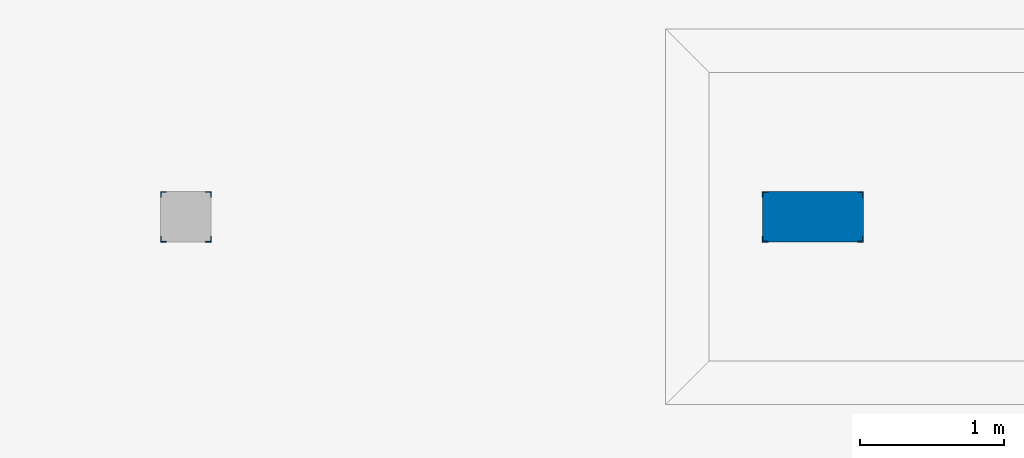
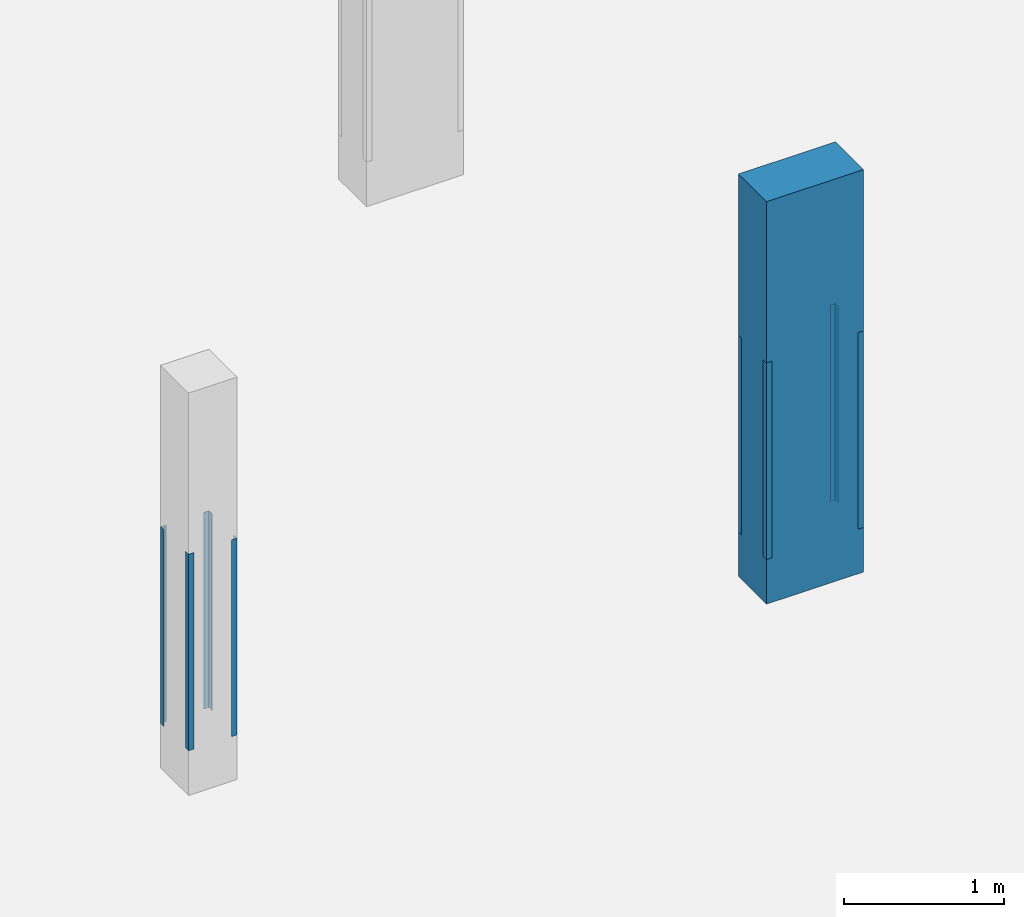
# One storey, part 15 of 42: 9 columns.
"""IFC2X3 building model written with IfcOpenShell, lengths in millimetres."""

from ifc_helpers import new_model, entity, si_unit, converted_unit, derived_unit, direction, frame, frame_2d, origin, place, context, subcontext, project, spatial, polyline, circle_curve, parameter, trimmed, segment, composite_curve, rectangle, outline, extrude, source, transform, mapped, material, type_object, type_shapes, element, save


model = new_model("IFC2X3")

# Units and contexts
model_context = context("Model", 3, precision=0.01, world=origin(), true_north=direction((6.12303176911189e-17, 1.0)))
body_context = subcontext(model_context, "Body", "Model", "MODEL_VIEW")
ifc_project = project(units=[si_unit("LENGTHUNIT", "METRE", prefix="MILLI"), si_unit("AREAUNIT", "SQUARE_METRE", prefix="MILLI"), si_unit("VOLUMEUNIT", "CUBIC_METRE"), converted_unit("PLANEANGLEUNIT", "DEGREE", entity("IfcRatioMeasure", 0.0174532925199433), si_unit("PLANEANGLEUNIT", "RADIAN"), dimensions=[0, 0, 0, 0, 0, 0, 0]), si_unit("MASSUNIT", "GRAM", prefix="KILO"), derived_unit("MASSDENSITYUNIT", [(si_unit("MASSUNIT", "GRAM", prefix="KILO"), 1), (si_unit("LENGTHUNIT", "METRE"), -3)]), derived_unit("MOMENTOFINERTIAUNIT", [(si_unit("LENGTHUNIT", "METRE"), 4)]), si_unit("TIMEUNIT", "SECOND"), si_unit("FREQUENCYUNIT", "HERTZ"), si_unit("THERMODYNAMICTEMPERATUREUNIT", "DEGREE_CELSIUS"), derived_unit("THERMALTRANSMITTANCEUNIT", [(si_unit("MASSUNIT", "GRAM", prefix="KILO"), 1), (si_unit("THERMODYNAMICTEMPERATUREUNIT", "KELVIN"), -1), (si_unit("TIMEUNIT", "SECOND"), -3)]), derived_unit("VOLUMETRICFLOWRATEUNIT", [(si_unit("LENGTHUNIT", "METRE"), 3), (si_unit("TIMEUNIT", "SECOND"), -1)]), si_unit("ELECTRICCURRENTUNIT", "AMPERE"), si_unit("ELECTRICVOLTAGEUNIT", "VOLT"), si_unit("POWERUNIT", "WATT"), si_unit("FORCEUNIT", "NEWTON", prefix="KILO"), si_unit("ILLUMINANCEUNIT", "LUX"), si_unit("LUMINOUSFLUXUNIT", "LUMEN"), si_unit("LUMINOUSINTENSITYUNIT", "CANDELA"), derived_unit("USERDEFINED", [(si_unit("MASSUNIT", "GRAM", prefix="KILO"), -1), (si_unit("LENGTHUNIT", "METRE"), -2), (si_unit("TIMEUNIT", "SECOND"), 3), (si_unit("LUMINOUSFLUXUNIT", "LUMEN"), 1)]), derived_unit("LINEARVELOCITYUNIT", [(si_unit("LENGTHUNIT", "METRE"), 1), (si_unit("TIMEUNIT", "SECOND"), -1)]), si_unit("PRESSUREUNIT", "PASCAL"), derived_unit("USERDEFINED", [(si_unit("LENGTHUNIT", "METRE"), -2), (si_unit("MASSUNIT", "GRAM", prefix="KILO"), 1), (si_unit("TIMEUNIT", "SECOND"), -2)]), derived_unit("LINEARFORCEUNIT", [(si_unit("MASSUNIT", "GRAM", prefix="KILO"), 1), (si_unit("LENGTHUNIT", "METRE"), 1), (si_unit("TIMEUNIT", "SECOND"), -2), (si_unit("LENGTHUNIT", "METRE"), -1)]), derived_unit("PLANARFORCEUNIT", [(si_unit("MASSUNIT", "GRAM", prefix="KILO"), 1), (si_unit("LENGTHUNIT", "METRE"), 1), (si_unit("TIMEUNIT", "SECOND"), -2), (si_unit("LENGTHUNIT", "METRE"), -2)])], contexts=[model_context])

# Site, building, storey
site_placement = place(None, origin())
site = spatial("IfcSite", under=ifc_project, at=site_placement, Name="Theater aan de Parade", CompositionType="ELEMENT")
building_placement = place(site_placement, origin())
building = spatial("IfcBuilding", under=site, at=building_placement, Name="Theater aan de Parade", CompositionType="ELEMENT")
storey_placement = place(building_placement, frame((0.0, 0.0, -3300.0)))
storey = spatial("IfcBuildingStorey", under=building, at=storey_placement, Name="-1 kelder", CompositionType="ELEMENT", Elevation=-3300.0)

# Columns
ifc_material_1 = material(Name="00_PBT_MAT_beton t.p.g.")
column_type_1 = type_object("IfcColumnType", Name="28_PBT_SC_beton_rechthoekig:700x350_bestaand", PredefinedType="COLUMN", material=ifc_material_1)
shared_shape_1 = source(origin(), body_context, "Body", "SweptSolid", [
    extrude(rectangle(XDim=349.999999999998, YDim=700.000000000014, at=frame_2d((4.33431068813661e-12, 0.0), x_axis=(1.0, 0.0))), frame((83290.0, 29970.0, -2640.0), z_axis=(0.0, 0.0, 1.0), x_axis=(0.0, -1.0, 0.0)), (0.0, 0.0, 1.0), 3070.00000000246),
])
type_shapes(column_type_1, [shared_shape_1])
column_1_placement = place(storey_placement, frame((0.0, 0.0, 3300.0)))
element("IfcColumn", 1, at=column_1_placement, inside=storey, type_object=column_type_1, material=ifc_material_1, Name="28_PBT_SC_beton_rechthoekig:700x350_bestaand", ObjectType="28_PBT_SC_beton_rechthoekig:700x350_bestaand", context=body_context, shape_type="MappedRepresentation", body=[
    mapped(shared_shape_1, transform((0.0, 0.0, 0.0), scale=1.0)),
])
ifc_material_2 = material(Name="00_PBT_MAT_staal")
column_type_2 = type_object("IfcColumnType", Name="28_PBT_SC_staal_L-profiel:L40x40x4_bestaand", PredefinedType="COLUMN", material=ifc_material_2)
shared_shape_2 = source(origin(), body_context, "Body", "SweptSolid", [
    extrude(outline(composite_curve([segment(polyline([(-15.1111111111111, -15.1111111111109), (24.8888888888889, -15.1111111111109)]), True, "CONTINUOUS"), segment(polyline([(24.8888888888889, -15.1111111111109), (24.8888888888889, -14.1111111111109)]), True, "CONTINUOUS"), segment(trimmed(circle_curve(frame_2d((21.8888888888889, -14.1111111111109), x_axis=(1.0, 0.0)), 3.0), [parameter(0.0)], [parameter(90.0000000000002)], True, "PARAMETER"), True, "CONTINUOUS"), segment(polyline([(21.8888888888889, -11.1111111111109), (-5.11111111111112, -11.1111111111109)]), True, "CONTINUOUS"), segment(trimmed(circle_curve(frame_2d((-5.11111111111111, -5.11111111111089), x_axis=(0.0, -1.0)), 6.0), [parameter(270.0)], [parameter(0.0)], True, "PARAMETER"), False, "CONTINUOUS"), segment(polyline([(-11.1111111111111, -5.11111111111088), (-11.1111111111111, 21.8888888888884)]), True, "CONTINUOUS"), segment(trimmed(circle_curve(frame_2d((-14.1111111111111, 21.8888888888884), x_axis=(1.0, 0.0)), 3.0), [parameter(0.0)], [parameter(90.0000000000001)], True, "PARAMETER"), True, "CONTINUOUS"), segment(polyline([(-14.1111111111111, 24.8888888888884), (-15.1111111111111, 24.8888888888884)]), True, "CONTINUOUS"), segment(polyline([(-15.1111111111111, 24.8888888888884), (-15.1111111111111, -15.1111111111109)]), True, "CONTINUOUS")], self_intersect=False)), frame((3.91111111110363, -3.9111111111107, -2300.0), z_axis=(0.0, 0.0, 1.0), x_axis=(0.0, -1.0, 0.0)), (0.0, 0.0, 1.0), 1500.0),
])
type_shapes(column_type_2, [shared_shape_2])
column_2_placement = place(storey_placement, frame((78781.2000000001, 30133.7999999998, 3300.0)))
element("IfcColumn", 2, at=column_2_placement, inside=storey, type_object=column_type_2, material=ifc_material_2, Name="28_PBT_SC_staal_L-profiel:L40x40x4_bestaand", ObjectType="28_PBT_SC_staal_L-profiel:L40x40x4_bestaand", context=body_context, shape_type="MappedRepresentation", body=[
    mapped(shared_shape_2, transform((0.0, 0.0, 0.0), scale=1.0)),
])
column_3_placement = place(storey_placement, frame((79108.7999999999, 29806.1999999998, 3300.0), z_axis=(0.0, 0.0, 1.0), x_axis=(-1.0, 0.0, 0.0)))
element("IfcColumn", 3, at=column_3_placement, inside=storey, type_object=column_type_2, material=ifc_material_2, Name="28_PBT_SC_staal_L-profiel:L40x40x4_bestaand", ObjectType="28_PBT_SC_staal_L-profiel:L40x40x4_bestaand", context=body_context, shape_type="MappedRepresentation", body=[
    mapped(shared_shape_2, transform((0.0, 0.0, 0.0), scale=1.0)),
])
column_4_placement = place(storey_placement, frame((82951.2, 30133.7999999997, 3300.0)))
element("IfcColumn", 4, at=column_4_placement, inside=storey, type_object=column_type_2, material=ifc_material_2, Name="28_PBT_SC_staal_L-profiel:L40x40x4_bestaand", ObjectType="28_PBT_SC_staal_L-profiel:L40x40x4_bestaand", context=body_context, shape_type="MappedRepresentation", body=[
    mapped(shared_shape_2, transform((0.0, 0.0, 0.0), scale=1.0)),
])
column_5_placement = place(storey_placement, frame((83628.7999999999, 29806.1999999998, 3300.0), z_axis=(0.0, 0.0, 1.0), x_axis=(-1.0, 0.0, 0.0)))
element("IfcColumn", 5, at=column_5_placement, inside=storey, type_object=column_type_2, material=ifc_material_2, Name="28_PBT_SC_staal_L-profiel:L40x40x4_bestaand", ObjectType="28_PBT_SC_staal_L-profiel:L40x40x4_bestaand", context=body_context, shape_type="MappedRepresentation", body=[
    mapped(shared_shape_2, transform((0.0, 0.0, 0.0), scale=1.0)),
])
column_type_3 = type_object("IfcColumnType", Name="28_PBT_SC_staal_L-profiel:L40x40x4_bestaand", PredefinedType="COLUMN", material=ifc_material_2)
shared_shape_3 = source(origin(), body_context, "Body", "SweptSolid", [
    extrude(outline(composite_curve([segment(polyline([(-24.8888888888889, -15.1111111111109), (15.1111111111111, -15.1111111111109)]), True, "CONTINUOUS"), segment(polyline([(15.1111111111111, -15.1111111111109), (15.1111111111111, 24.8888888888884)]), True, "CONTINUOUS"), segment(polyline([(15.1111111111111, 24.8888888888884), (14.1111111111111, 24.8888888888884)]), True, "CONTINUOUS"), segment(trimmed(circle_curve(frame_2d((14.1111111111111, 21.8888888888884), x_axis=(0.0, 1.0)), 3.0), [parameter(0.0)], [parameter(89.9999999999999)], True, "PARAMETER"), True, "CONTINUOUS"), segment(polyline([(11.1111111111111, 21.8888888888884), (11.1111111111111, -5.11111111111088)]), True, "CONTINUOUS"), segment(trimmed(circle_curve(frame_2d((5.1111111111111, -5.1111111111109), x_axis=(1.0, 0.0)), 6.0), [parameter(270.0)], [parameter(0.0)], True, "PARAMETER"), False, "CONTINUOUS"), segment(polyline([(5.11111111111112, -11.1111111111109), (-21.8888888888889, -11.1111111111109)]), True, "CONTINUOUS"), segment(trimmed(circle_curve(frame_2d((-21.8888888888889, -14.1111111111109), x_axis=(0.0, 1.0)), 3.0), [parameter(0.0)], [parameter(90.0000000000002)], True, "PARAMETER"), True, "CONTINUOUS"), segment(polyline([(-24.8888888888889, -14.1111111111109), (-24.8888888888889, -15.1111111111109)]), True, "CONTINUOUS")], self_intersect=False)), frame((3.91111111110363, 3.91111111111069, -2300.0), z_axis=(0.0, 0.0, 1.0), x_axis=(0.0, -1.0, 0.0)), (0.0, 0.0, 1.0), 1500.0),
])
type_shapes(column_type_3, [shared_shape_3])
column_6_placement = place(storey_placement, frame((79108.7999999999, 30133.7999999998, 3300.0), z_axis=(0.0, 0.0, 1.0), x_axis=(-1.0, 0.0, 0.0)))
element("IfcColumn", 6, at=column_6_placement, inside=storey, type_object=column_type_3, material=ifc_material_2, Name="28_PBT_SC_staal_L-profiel:L40x40x4_bestaand", ObjectType="28_PBT_SC_staal_L-profiel:L40x40x4_bestaand", context=body_context, shape_type="MappedRepresentation", body=[
    mapped(shared_shape_3, transform((0.0, 0.0, 0.0), scale=1.0)),
])
column_7_placement = place(storey_placement, frame((78781.2000000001, 29806.1999999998, 3300.0)))
element("IfcColumn", 7, at=column_7_placement, inside=storey, type_object=column_type_3, material=ifc_material_2, Name="28_PBT_SC_staal_L-profiel:L40x40x4_bestaand", ObjectType="28_PBT_SC_staal_L-profiel:L40x40x4_bestaand", context=body_context, shape_type="MappedRepresentation", body=[
    mapped(shared_shape_3, transform((0.0, 0.0, 0.0), scale=1.0)),
])
column_8_placement = place(storey_placement, frame((83628.7999999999, 30133.7999999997, 3300.0), z_axis=(0.0, 0.0, 1.0), x_axis=(-1.0, 0.0, 0.0)))
element("IfcColumn", 8, at=column_8_placement, inside=storey, type_object=column_type_3, material=ifc_material_2, Name="28_PBT_SC_staal_L-profiel:L40x40x4_bestaand", ObjectType="28_PBT_SC_staal_L-profiel:L40x40x4_bestaand", context=body_context, shape_type="MappedRepresentation", body=[
    mapped(shared_shape_3, transform((0.0, 0.0, 0.0), scale=1.0)),
])
column_9_placement = place(storey_placement, frame((82951.2, 29806.1999999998, 3300.0)))
element("IfcColumn", 9, at=column_9_placement, inside=storey, type_object=column_type_3, material=ifc_material_2, Name="28_PBT_SC_staal_L-profiel:L40x40x4_bestaand", ObjectType="28_PBT_SC_staal_L-profiel:L40x40x4_bestaand", context=body_context, shape_type="MappedRepresentation", body=[
    mapped(shared_shape_3, transform((0.0, 0.0, 0.0), scale=1.0)),
])

save(model, "model.ifc")
